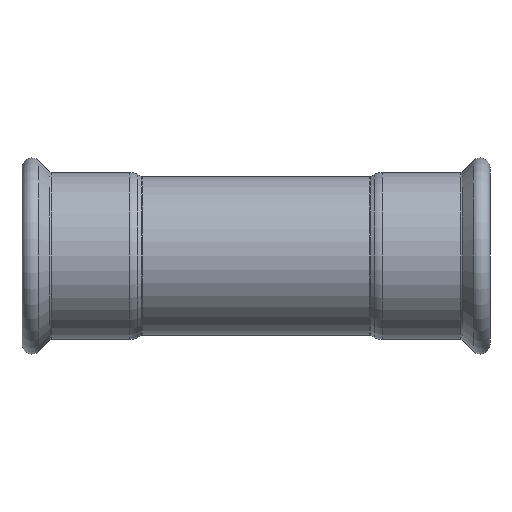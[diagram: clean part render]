
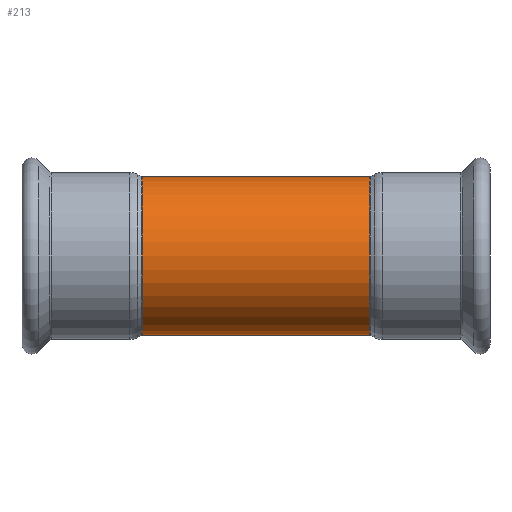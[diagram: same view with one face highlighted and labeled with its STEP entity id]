
A CAD part, front view. The second image highlights one B-rep face of the part: STEP entity #213.
In plain terms, the highlighted cylindrical face has radius 43.95 mm (diameter 87.9 mm), a partial arc.
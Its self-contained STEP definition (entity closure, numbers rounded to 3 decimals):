
#14 = CARTESIAN_POINT ( 'NONE',  ( 27.146, 0., 0. ) ) ;
#27 = CARTESIAN_POINT ( 'NONE',  ( -63.056, 0., 0. ) ) ;
#47 = AXIS2_PLACEMENT_3D ( 'NONE', #14, #295, #3027 ) ;
#213 = ADVANCED_FACE ( 'NONE', ( #3323 ), #464, .T. ) ;
#228 = EDGE_CURVE ( 'NONE', #447, #733, #4187, .T. ) ;
#295 = DIRECTION ( 'NONE',  ( -1., 0., 0. ) ) ;
#447 = VERTEX_POINT ( 'NONE', #1342 ) ;
#464 = CYLINDRICAL_SURFACE ( 'NONE', #47, 43.95 ) ;
#581 = DIRECTION ( 'NONE',  ( -1., 0., 0. ) ) ;
#697 = EDGE_CURVE ( 'NONE', #733, #2963, #2519, .T. ) ;
#733 = VERTEX_POINT ( 'NONE', #2526 ) ;
#774 = VECTOR ( 'NONE', #4194, 1000. ) ;
#1173 = ORIENTED_EDGE ( 'NONE', *, *, #2951, .F. ) ;
#1341 = DIRECTION ( 'NONE',  ( -1., 0., 0. ) ) ;
#1342 = CARTESIAN_POINT ( 'NONE',  ( 63.056, 0., -43.95 ) ) ;
#1541 = VECTOR ( 'NONE', #581, 1000. ) ;
#1551 = CIRCLE ( 'NONE', #2580, 43.95 ) ;
#1595 = EDGE_CURVE ( 'NONE', #4053, #2963, #1551, .T. ) ;
#1631 = AXIS2_PLACEMENT_3D ( 'NONE', #2759, #2167, #2494 ) ;
#1684 = DIRECTION ( 'NONE',  ( 0., 0., 1. ) ) ;
#2167 = DIRECTION ( 'NONE',  ( -1., 0., 0. ) ) ;
#2265 = CARTESIAN_POINT ( 'NONE',  ( -63.056, 0., 43.95 ) ) ;
#2494 = DIRECTION ( 'NONE',  ( 0., 0., 1. ) ) ;
#2519 = LINE ( 'NONE', #3239, #774 ) ;
#2526 = CARTESIAN_POINT ( 'NONE',  ( 63.056, 0., 43.95 ) ) ;
#2580 = AXIS2_PLACEMENT_3D ( 'NONE', #27, #1341, #1684 ) ;
#2718 = LINE ( 'NONE', #4242, #1541 ) ;
#2741 = ORIENTED_EDGE ( 'NONE', *, *, #697, .T. ) ;
#2759 = CARTESIAN_POINT ( 'NONE',  ( 63.056, 0., 0. ) ) ;
#2932 = ORIENTED_EDGE ( 'NONE', *, *, #1595, .F. ) ;
#2951 = EDGE_CURVE ( 'NONE', #447, #4053, #2718, .T. ) ;
#2963 = VERTEX_POINT ( 'NONE', #2265 ) ;
#2978 = CARTESIAN_POINT ( 'NONE',  ( -63.056, 0., -43.95 ) ) ;
#3026 = ORIENTED_EDGE ( 'NONE', *, *, #228, .T. ) ;
#3027 = DIRECTION ( 'NONE',  ( 0., 0., 1. ) ) ;
#3239 = CARTESIAN_POINT ( 'NONE',  ( 27.146, 0., 43.95 ) ) ;
#3323 = FACE_OUTER_BOUND ( 'NONE', #4164, .T. ) ;
#4053 = VERTEX_POINT ( 'NONE', #2978 ) ;
#4164 = EDGE_LOOP ( 'NONE', ( #1173, #3026, #2741, #2932 ) ) ;
#4187 = CIRCLE ( 'NONE', #1631, 43.95 ) ;
#4194 = DIRECTION ( 'NONE',  ( -1., 0., 0. ) ) ;
#4242 = CARTESIAN_POINT ( 'NONE',  ( 27.146, 0., -43.95 ) ) ;
